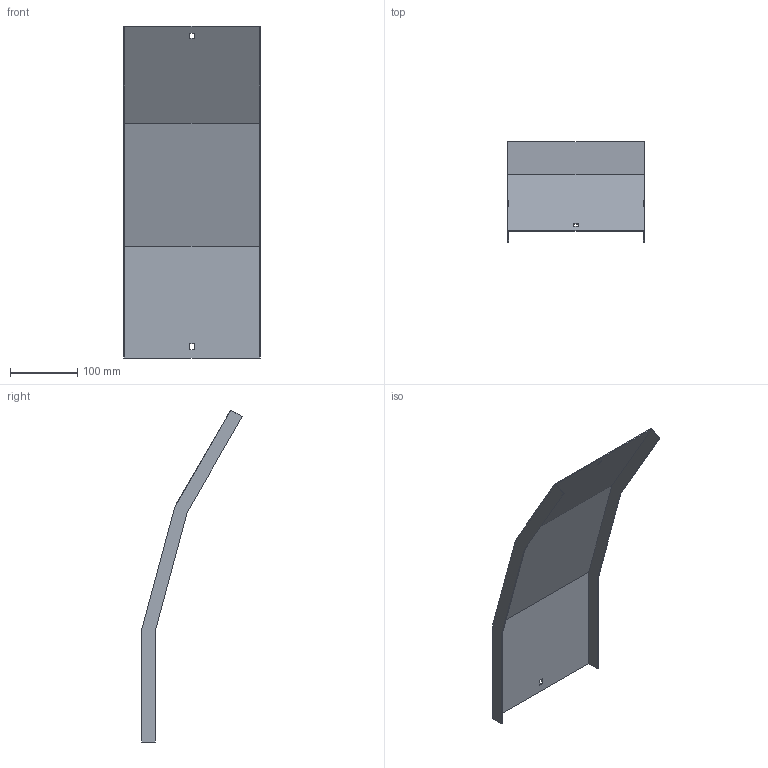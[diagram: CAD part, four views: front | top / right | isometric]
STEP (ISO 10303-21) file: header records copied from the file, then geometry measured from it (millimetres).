
FILE_DESCRIPTION (( 'STEP AP214' ), '1' );
FILE_NAME ('A2_35N3J200.step', '2025-02-21T10:31:13', ( '' ), ( '' ), 'SwSTEP 2.0', 'SolidWorks 2023', '' );
FILE_SCHEMA (( 'AUTOMOTIVE_DESIGN' ));
Length unit declared in the file: millimetre
Products named in the file (1): A2_35N3J200
Bounding box: 203 x 149.62 x 493.76 mm (x, y, z)
Volume: 187501.6 mm3; surface area: 252352.4 mm2
Topology: 1 solids, 1 shells, 26 faces, 72 edges, 48 vertices
Faces by surface type: plane 26
Entity records: 847 total; most frequent: CARTESIAN_POINT 147, ORIENTED_EDGE 144, DIRECTION 126, VECTOR 72, LINE 72, EDGE_CURVE 72, VERTEX_POINT 48, EDGE_LOOP 30
